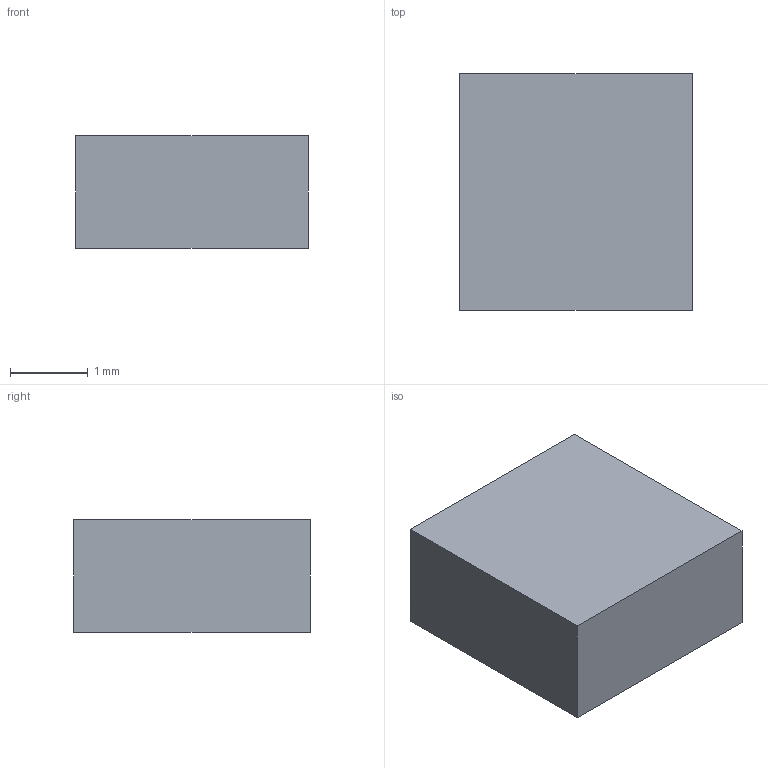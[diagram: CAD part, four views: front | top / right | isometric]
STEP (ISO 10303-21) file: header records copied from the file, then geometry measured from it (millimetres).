
FILE_DESCRIPTION(('Open CASCADE Model'),'2;1');
FILE_NAME('Open CASCADE Shape Model','2026-09-17T14:57:39',('Author'),( 'Open CASCADE'),'Open CASCADE STEP processor 7.8','Open CASCADE 7.8' ,'Unknown');
FILE_SCHEMA(('AUTOMOTIVE_DESIGN { 1 0 10303 214 1 1 1 1 }'));
Length unit declared in the file: millimetre
Products named in the file (1): Open CASCADE STEP translator 7.8 33
Bounding box: 3 x 3.05 x 1.45 mm (x, y, z)
Volume: 13.3 mm3; surface area: 35.8 mm2
Topology: 1 solids, 1 shells, 6 faces, 12 edges, 8 vertices
Faces by surface type: plane 6
Entity records: 322 total; most frequent: CARTESIAN_POINT 51, DIRECTION 50, LINE 36, VECTOR 36, ORIENTED_EDGE 24, PCURVE 24, DEFINITIONAL_REPRESENTATION 24, EDGE_CURVE 12
